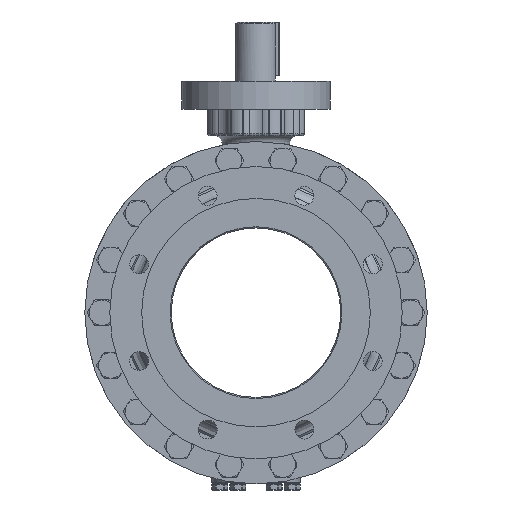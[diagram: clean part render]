
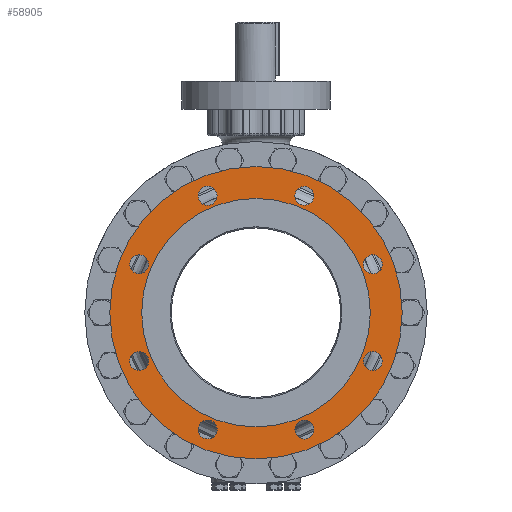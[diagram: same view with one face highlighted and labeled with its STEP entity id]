
A CAD part, left-side view. The second image highlights one B-rep face of the part: STEP entity #58905.
In plain terms, the highlighted planar face has unit normal (-1, 0, 0).
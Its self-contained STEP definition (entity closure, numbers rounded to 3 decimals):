
#3995=CARTESIAN_POINT('',(-227.,0.,0.));
#3996=DIRECTION('',(1.,0.,0.));
#3997=DIRECTION('',(0.,0.,1.));
#3998=AXIS2_PLACEMENT_3D('',#3995,#3996,#3997);
#4000=CARTESIAN_POINT('',(-227.,0.,0.));
#4001=DIRECTION('',(-1.,0.,0.));
#4002=DIRECTION('',(0.,0.,1.));
#4003=AXIS2_PLACEMENT_3D('',#4000,#4001,#4002);
#4005=CARTESIAN_POINT('',(-227.,0.,0.));
#4006=DIRECTION('',(1.,0.,0.));
#4007=DIRECTION('',(0.,0.,1.));
#4008=AXIS2_PLACEMENT_3D('',#4005,#4006,#4007);
#4010=CARTESIAN_POINT('',(-227.,0.,0.));
#4011=DIRECTION('',(-1.,0.,0.));
#4012=DIRECTION('',(0.,0.,1.));
#4013=AXIS2_PLACEMENT_3D('',#4010,#4011,#4012);
#4015=CARTESIAN_POINT('',(-227.,57.116,137.889));
#4016=DIRECTION('',(-1.,0.,0.));
#4017=DIRECTION('',(0.,-1.,0.));
#4018=AXIS2_PLACEMENT_3D('',#4015,#4016,#4017);
#4020=CARTESIAN_POINT('',(-227.,57.116,137.889));
#4021=DIRECTION('',(-1.,0.,0.));
#4022=DIRECTION('',(0.,1.,0.));
#4023=AXIS2_PLACEMENT_3D('',#4020,#4021,#4022);
#4025=CARTESIAN_POINT('',(-227.,137.889,57.116));
#4026=DIRECTION('',(-1.,0.,0.));
#4027=DIRECTION('',(0.,-0.707,0.707));
#4028=AXIS2_PLACEMENT_3D('',#4025,#4026,#4027);
#4030=CARTESIAN_POINT('',(-227.,137.889,57.116));
#4031=DIRECTION('',(-1.,0.,0.));
#4032=DIRECTION('',(0.,0.707,-0.707));
#4033=AXIS2_PLACEMENT_3D('',#4030,#4031,#4032);
#4035=CARTESIAN_POINT('',(-227.,137.889,-57.116));
#4036=DIRECTION('',(-1.,0.,0.));
#4037=DIRECTION('',(0.,0.,1.));
#4038=AXIS2_PLACEMENT_3D('',#4035,#4036,#4037);
#4040=CARTESIAN_POINT('',(-227.,137.889,-57.116));
#4041=DIRECTION('',(-1.,0.,0.));
#4042=DIRECTION('',(0.,0.,-1.));
#4043=AXIS2_PLACEMENT_3D('',#4040,#4041,#4042);
#4045=CARTESIAN_POINT('',(-227.,57.116,-137.889));
#4046=DIRECTION('',(-1.,0.,0.));
#4047=DIRECTION('',(0.,0.707,0.707));
#4048=AXIS2_PLACEMENT_3D('',#4045,#4046,#4047);
#4050=CARTESIAN_POINT('',(-227.,57.116,-137.889));
#4051=DIRECTION('',(-1.,0.,0.));
#4052=DIRECTION('',(0.,-0.707,-0.707));
#4053=AXIS2_PLACEMENT_3D('',#4050,#4051,#4052);
#4055=CARTESIAN_POINT('',(-227.,-57.116,-137.889));
#4056=DIRECTION('',(-1.,0.,0.));
#4057=DIRECTION('',(0.,1.,0.));
#4058=AXIS2_PLACEMENT_3D('',#4055,#4056,#4057);
#4060=CARTESIAN_POINT('',(-227.,-57.116,-137.889));
#4061=DIRECTION('',(-1.,0.,0.));
#4062=DIRECTION('',(0.,-1.,0.));
#4063=AXIS2_PLACEMENT_3D('',#4060,#4061,#4062);
#4065=CARTESIAN_POINT('',(-227.,-137.889,-57.116));
#4066=DIRECTION('',(-1.,0.,0.));
#4067=DIRECTION('',(0.,0.707,-0.707));
#4068=AXIS2_PLACEMENT_3D('',#4065,#4066,#4067);
#4070=CARTESIAN_POINT('',(-227.,-137.889,-57.116));
#4071=DIRECTION('',(-1.,0.,0.));
#4072=DIRECTION('',(0.,-0.707,0.707));
#4073=AXIS2_PLACEMENT_3D('',#4070,#4071,#4072);
#4075=CARTESIAN_POINT('',(-227.,-137.889,57.116));
#4076=DIRECTION('',(-1.,0.,0.));
#4077=DIRECTION('',(0.,0.,-1.));
#4078=AXIS2_PLACEMENT_3D('',#4075,#4076,#4077);
#4080=CARTESIAN_POINT('',(-227.,-137.889,57.116));
#4081=DIRECTION('',(-1.,0.,0.));
#4082=DIRECTION('',(0.,0.,1.));
#4083=AXIS2_PLACEMENT_3D('',#4080,#4081,#4082);
#4085=CARTESIAN_POINT('',(-227.,-57.116,137.889));
#4086=DIRECTION('',(-1.,0.,0.));
#4087=DIRECTION('',(0.,-0.707,-0.707));
#4088=AXIS2_PLACEMENT_3D('',#4085,#4086,#4087);
#4090=CARTESIAN_POINT('',(-227.,-57.116,137.889));
#4091=DIRECTION('',(-1.,0.,0.));
#4092=DIRECTION('',(0.,0.707,0.707));
#4093=AXIS2_PLACEMENT_3D('',#4090,#4091,#4092);
#48918=CARTESIAN_POINT('',(-227.,0.,172.5));
#48920=VERTEX_POINT('',#48918);
#48926=CARTESIAN_POINT('',(-227.,0.,-172.5));
#48928=VERTEX_POINT('',#48926);
#48958=CARTESIAN_POINT('',(-227.,45.966,137.889));
#48959=VERTEX_POINT('',#48958);
#48960=CARTESIAN_POINT('',(-227.,68.266,137.889));
#48961=VERTEX_POINT('',#48960);
#48966=CARTESIAN_POINT('',(-227.,130.005,65.));
#48967=VERTEX_POINT('',#48966);
#48968=CARTESIAN_POINT('',(-227.,145.773,49.231));
#48969=VERTEX_POINT('',#48968);
#48974=CARTESIAN_POINT('',(-227.,137.889,-45.966));
#48975=VERTEX_POINT('',#48974);
#48976=CARTESIAN_POINT('',(-227.,137.889,-68.266));
#48977=VERTEX_POINT('',#48976);
#48982=CARTESIAN_POINT('',(-227.,65.,-130.005));
#48983=VERTEX_POINT('',#48982);
#48984=CARTESIAN_POINT('',(-227.,49.231,-145.773));
#48985=VERTEX_POINT('',#48984);
#48990=CARTESIAN_POINT('',(-227.,-45.966,-137.889));
#48991=VERTEX_POINT('',#48990);
#48992=CARTESIAN_POINT('',(-227.,-68.266,-137.889));
#48993=VERTEX_POINT('',#48992);
#48998=CARTESIAN_POINT('',(-227.,-130.005,-65.));
#48999=VERTEX_POINT('',#48998);
#49000=CARTESIAN_POINT('',(-227.,-145.773,-49.231));
#49001=VERTEX_POINT('',#49000);
#49006=CARTESIAN_POINT('',(-227.,-137.889,45.966));
#49007=VERTEX_POINT('',#49006);
#49008=CARTESIAN_POINT('',(-227.,-137.889,68.266));
#49009=VERTEX_POINT('',#49008);
#49014=CARTESIAN_POINT('',(-227.,-65.,130.005));
#49015=VERTEX_POINT('',#49014);
#49016=CARTESIAN_POINT('',(-227.,-49.231,145.773));
#49017=VERTEX_POINT('',#49016);
#49019=CARTESIAN_POINT('',(-227.,0.,134.85));
#49021=VERTEX_POINT('',#49019);
#49023=CARTESIAN_POINT('',(-227.,0.,-134.85));
#49025=VERTEX_POINT('',#49023);
#58842=CARTESIAN_POINT('',(-227.,0.,0.));
#58843=DIRECTION('',(-1.,0.,0.));
#58844=DIRECTION('',(0.,0.,-1.));
#58845=AXIS2_PLACEMENT_3D('',#58842,#58843,#58844);
#58846=PLANE('',#58845);
#58847=ORIENTED_EDGE('',*,*,#58835,.F.);
#58848=ORIENTED_EDGE('',*,*,#58824,.T.);
#58849=EDGE_LOOP('',(#58847,#58848));
#58850=FACE_OUTER_BOUND('',#58849,.F.);
#58852=ORIENTED_EDGE('',*,*,#58851,.F.);
#58854=ORIENTED_EDGE('',*,*,#58853,.T.);
#58855=EDGE_LOOP('',(#58852,#58854));
#58856=FACE_BOUND('',#58855,.F.);
#58858=ORIENTED_EDGE('',*,*,#58857,.T.);
#58860=ORIENTED_EDGE('',*,*,#58859,.T.);
#58861=EDGE_LOOP('',(#58858,#58860));
#58862=FACE_BOUND('',#58861,.F.);
#58864=ORIENTED_EDGE('',*,*,#58863,.T.);
#58866=ORIENTED_EDGE('',*,*,#58865,.T.);
#58867=EDGE_LOOP('',(#58864,#58866));
#58868=FACE_BOUND('',#58867,.F.);
#58870=ORIENTED_EDGE('',*,*,#58869,.T.);
#58872=ORIENTED_EDGE('',*,*,#58871,.T.);
#58873=EDGE_LOOP('',(#58870,#58872));
#58874=FACE_BOUND('',#58873,.F.);
#58876=ORIENTED_EDGE('',*,*,#58875,.T.);
#58878=ORIENTED_EDGE('',*,*,#58877,.T.);
#58879=EDGE_LOOP('',(#58876,#58878));
#58880=FACE_BOUND('',#58879,.F.);
#58882=ORIENTED_EDGE('',*,*,#58881,.T.);
#58884=ORIENTED_EDGE('',*,*,#58883,.T.);
#58885=EDGE_LOOP('',(#58882,#58884));
#58886=FACE_BOUND('',#58885,.F.);
#58888=ORIENTED_EDGE('',*,*,#58887,.T.);
#58890=ORIENTED_EDGE('',*,*,#58889,.T.);
#58891=EDGE_LOOP('',(#58888,#58890));
#58892=FACE_BOUND('',#58891,.F.);
#58894=ORIENTED_EDGE('',*,*,#58893,.T.);
#58896=ORIENTED_EDGE('',*,*,#58895,.T.);
#58897=EDGE_LOOP('',(#58894,#58896));
#58898=FACE_BOUND('',#58897,.F.);
#58900=ORIENTED_EDGE('',*,*,#58899,.T.);
#58902=ORIENTED_EDGE('',*,*,#58901,.T.);
#58903=EDGE_LOOP('',(#58900,#58902));
#58904=FACE_BOUND('',#58903,.F.);
#58905=ADVANCED_FACE('',(#58850,#58856,#58862,#58868,#58874,#58880,#58886,
#58892,#58898,#58904),#58846,.T.);
#3999=CIRCLE('',#3998,172.5);
#4004=CIRCLE('',#4003,172.5);
#4009=CIRCLE('',#4008,134.85);
#4014=CIRCLE('',#4013,134.85);
#4019=CIRCLE('',#4018,11.15);
#4024=CIRCLE('',#4023,11.15);
#4029=CIRCLE('',#4028,11.15);
#4034=CIRCLE('',#4033,11.15);
#4039=CIRCLE('',#4038,11.15);
#4044=CIRCLE('',#4043,11.15);
#4049=CIRCLE('',#4048,11.15);
#4054=CIRCLE('',#4053,11.15);
#4059=CIRCLE('',#4058,11.15);
#4064=CIRCLE('',#4063,11.15);
#4069=CIRCLE('',#4068,11.15);
#4074=CIRCLE('',#4073,11.15);
#4079=CIRCLE('',#4078,11.15);
#4084=CIRCLE('',#4083,11.15);
#4089=CIRCLE('',#4088,11.15);
#4094=CIRCLE('',#4093,11.15);
#58824=EDGE_CURVE('',#48920,#48928,#3999,.T.);
#58835=EDGE_CURVE('',#48920,#48928,#4004,.T.);
#58851=EDGE_CURVE('',#49021,#49025,#4009,.T.);
#58853=EDGE_CURVE('',#49021,#49025,#4014,.T.);
#58857=EDGE_CURVE('',#48959,#48961,#4019,.T.);
#58859=EDGE_CURVE('',#48961,#48959,#4024,.T.);
#58863=EDGE_CURVE('',#48967,#48969,#4029,.T.);
#58865=EDGE_CURVE('',#48969,#48967,#4034,.T.);
#58869=EDGE_CURVE('',#48975,#48977,#4039,.T.);
#58871=EDGE_CURVE('',#48977,#48975,#4044,.T.);
#58875=EDGE_CURVE('',#48983,#48985,#4049,.T.);
#58877=EDGE_CURVE('',#48985,#48983,#4054,.T.);
#58881=EDGE_CURVE('',#48991,#48993,#4059,.T.);
#58883=EDGE_CURVE('',#48993,#48991,#4064,.T.);
#58887=EDGE_CURVE('',#48999,#49001,#4069,.T.);
#58889=EDGE_CURVE('',#49001,#48999,#4074,.T.);
#58893=EDGE_CURVE('',#49007,#49009,#4079,.T.);
#58895=EDGE_CURVE('',#49009,#49007,#4084,.T.);
#58899=EDGE_CURVE('',#49015,#49017,#4089,.T.);
#58901=EDGE_CURVE('',#49017,#49015,#4094,.T.);
